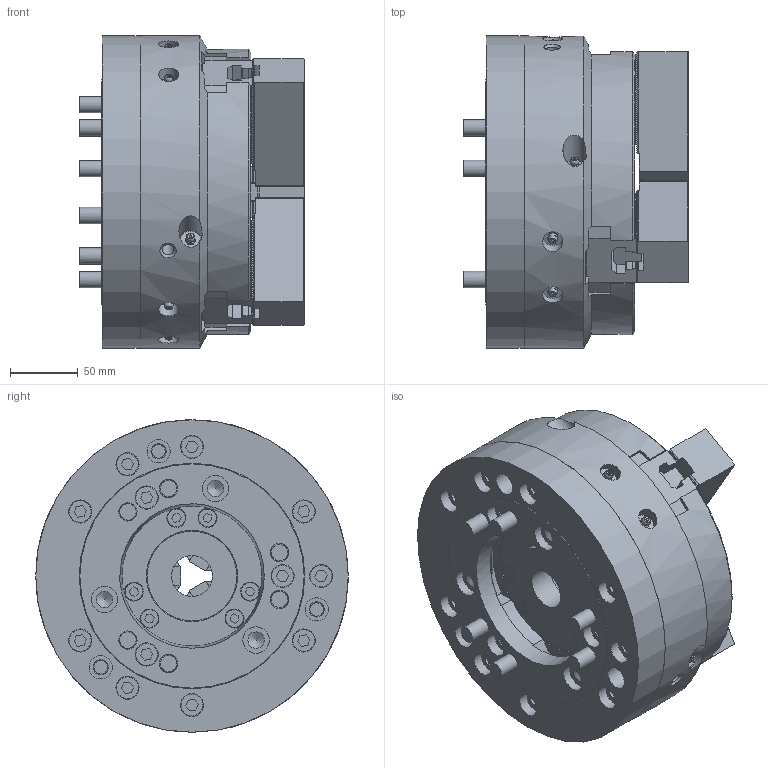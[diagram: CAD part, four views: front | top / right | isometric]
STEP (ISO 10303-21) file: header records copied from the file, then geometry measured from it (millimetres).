
FILE_DESCRIPTION (( 'STEP AP214' ), '1' );
FILE_NAME ('HOH-208_OC.STEP', '2020-03-06T02:46:59', ( '' ), ( '' ), 'SwSTEP 2.0', 'SolidWorks 2017', '' );
FILE_SCHEMA (( 'AUTOMOTIVE_DESIGN' ));
Length unit declared in the file: millimetre
Products named in the file (18): HOH-208_OC; B傾僫僣僉 M12亊302_~30; 61P304291_SOFT JAW; B傾僫僣僉 M12亊302_~30_棉太倌TI佱UA; Part1^61P216925_HOH-208_ASSY_蹬怮椔; 61P417260 T僫僢僩b_g; 61P417260 T僫僢僩b_g_棉太倌佱UA; Part1^61P216925_HOH-208_ASSY; 61P304291_SOFT JAW_蹬怮椔
Assembly tree (13 placements, depth 2):
  HOH-208_OC
    Part1^61P216925_HOH-208_ASSY_蹬怮椔
    61P304291_SOFT JAW_蹬怮椔  x3
    61P417260 T僫僢僩b_g_棉太倌佱UA  x3
    B傾僫僣僉 M12亊302_~30_棉太倌TI佱UA  x6
  B傾僫僣僉 M12亊302_~30
  61P304291_SOFT JAW
  B傾僫僣僉 M12亊302_~30
  B傾僫僣僉 M12亊302_~30
Bounding box: 165.2 x 230 x 230 mm (x, y, z)
Volume: 4146871.2 mm3; surface area: 394327.8 mm2
Topology: 13 solids, 70 shells, 3588 faces, 9905 edges, 6574 vertices
Faces by surface type: plane 2813, cylinder 651, cone 88, torus 18, sphere 18
Full cylindrical faces by diameter (mm): 2 x9, 3 x9, 5.3 x3, 6 x6, 8.5 x2, 9 x3, 10 x6, 10.5 x6, 12 x18, 13 x12, 13.5 x12, 14 x6, 15 x6, 15.7 x3, 16 x15, 17 x18, 18 x12, 19 x6, 19.45 x3, 20 x6, 30 x1, 52 x2, 56 x1, 56.676 x1, 61 x1, 66 x1, 217 x1, 230 x2
Entity records: 80811 total; most frequent: CARTESIAN_POINT 16786, ORIENTED_EDGE 13412, DIRECTION 12395, EDGE_CURVE 6706, LINE 5315, VECTOR 5315, VERTEX_POINT 4540, AXIS2_PLACEMENT_3D 3540
